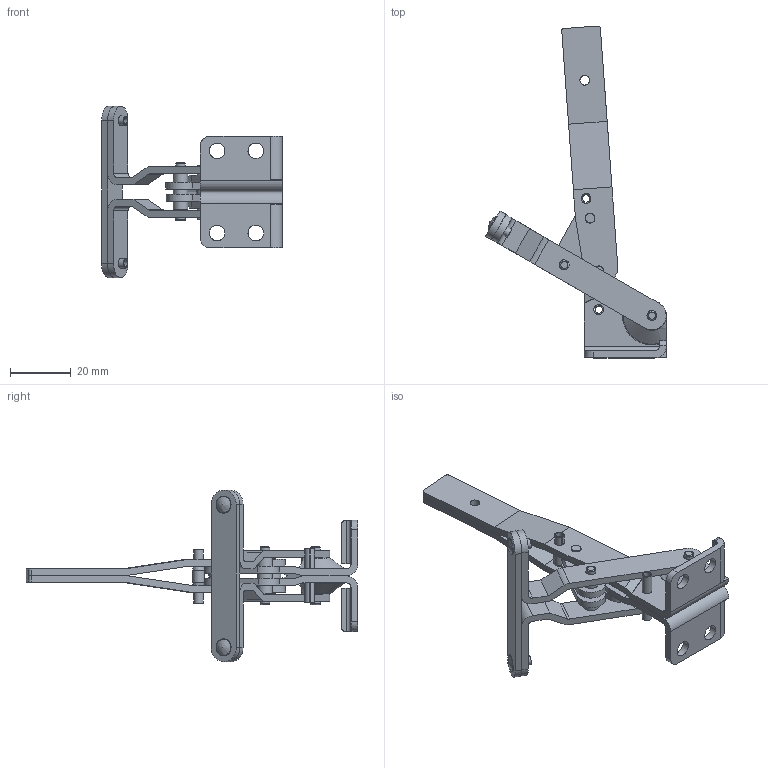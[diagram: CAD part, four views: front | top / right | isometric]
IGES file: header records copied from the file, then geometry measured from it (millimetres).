
Global section: file name: TC-100 Open; native system: Autodesk RealDWG; preprocessor: Autodesk Translation Framework DWG producer (atf_dwg_producer); author: rtaylor; organization: unknown; date: 20151006.160652; units: inch
Bounding box: 59.39 x 108.98 x 56.4 mm (x, y, z)
Volume: 15654.6 mm3; surface area: 18602.2 mm2
Topology: 17 solids, 17 shells, 258 faces, 652 edges, 440 vertices
Faces by surface type: bspline 258
